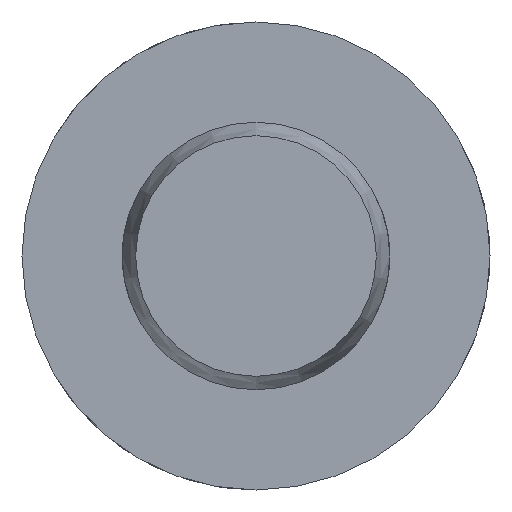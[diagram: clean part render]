
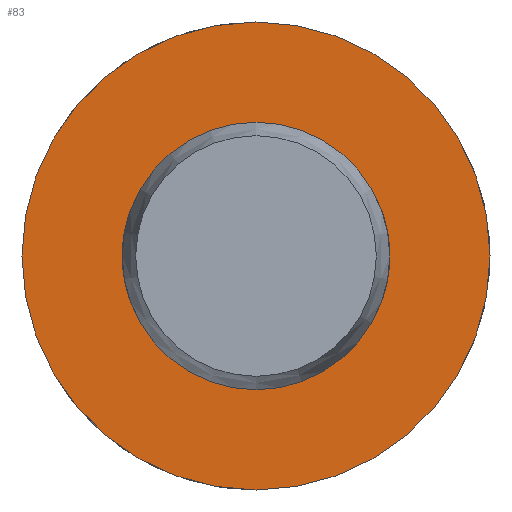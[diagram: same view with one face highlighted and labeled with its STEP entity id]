
A CAD part, left-side view. The second image highlights one B-rep face of the part: STEP entity #83.
In plain terms, the highlighted planar face has unit normal (-1, 0, 0).
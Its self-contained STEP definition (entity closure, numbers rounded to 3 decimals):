
#83 = ADVANCED_FACE( '', ( #128, #129 ), #130, .F. );
#128 = FACE_OUTER_BOUND( '', #204, .T. );
#129 = FACE_BOUND( '', #205, .T. );
#130 = PLANE( '', #206 );
#204 = EDGE_LOOP( '', ( #318 ) );
#205 = EDGE_LOOP( '', ( #319 ) );
#206 = AXIS2_PLACEMENT_3D( '', #320, #321, #322 );
#318 = ORIENTED_EDGE( '', *, *, #481, .F. );
#319 = ORIENTED_EDGE( '', *, *, #471, .T. );
#320 = CARTESIAN_POINT( '', ( 33.2, 4., 0. ) );
#321 = DIRECTION( '', ( 1., 0., 0. ) );
#322 = DIRECTION( '', ( 0., 0., -1. ) );
#471 = EDGE_CURVE( '', #541, #541, #542, .T. );
#481 = EDGE_CURVE( '', #559, #559, #560, .T. );
#541 = VERTEX_POINT( '', #726 );
#542 = CIRCLE( '', #727, 4. );
#559 = VERTEX_POINT( '', #861 );
#560 = CIRCLE( '', #862, 7. );
#726 = CARTESIAN_POINT( '', ( 33.2, 0., -4. ) );
#727 = AXIS2_PLACEMENT_3D( '', #923, #924, #925 );
#861 = CARTESIAN_POINT( '', ( 33.2, 0., -7. ) );
#862 = AXIS2_PLACEMENT_3D( '', #944, #945, #946 );
#923 = CARTESIAN_POINT( '', ( 33.2, 0., 0. ) );
#924 = DIRECTION( '', ( 1., 0., 0. ) );
#925 = DIRECTION( '', ( 0., 0., -1. ) );
#944 = CARTESIAN_POINT( '', ( 33.2, 0., 0. ) );
#945 = DIRECTION( '', ( 1., 0., 0. ) );
#946 = DIRECTION( '', ( 0., 0., -1. ) );
